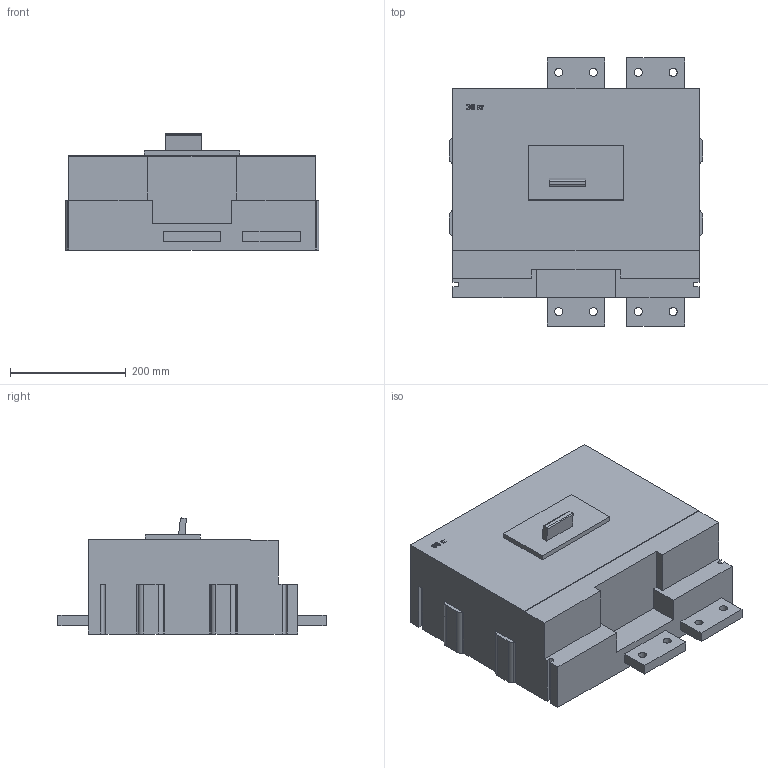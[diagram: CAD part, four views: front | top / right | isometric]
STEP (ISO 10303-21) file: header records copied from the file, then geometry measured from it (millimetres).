
FILE_DESCRIPTION (( 'STEP AP214' ), '1' );
FILE_NAME ('ﾂﾀ 56-43 DC 1600ﾀ.STEP', '2023-02-10T05:17:40', ( '' ), ( '' ), 'SwSTEP 2.0', 'SolidWorks 2018', '' );
FILE_SCHEMA (( 'AUTOMOTIVE_DESIGN' ));
Length unit declared in the file: millimetre
Products named in the file (1): ﾂﾀ 56-43 DC 1600ﾀ
Bounding box: 438 x 462.5 x 200.19 mm (x, y, z)
Volume: 24004081 mm3; surface area: 633669.3 mm2
Topology: 1 solids, 1 shells, 111 faces, 351 edges, 253 vertices
Faces by surface type: plane 81, cylinder 30
Full cylindrical faces by diameter (mm): 14 x8
Entity records: 4445 total; most frequent: CARTESIAN_POINT 1214, ORIENTED_EDGE 686, DIRECTION 591, EDGE_CURVE 343, VERTEX_POINT 253, VECTOR 247, LINE 247, AXIS2_PLACEMENT_3D 172
